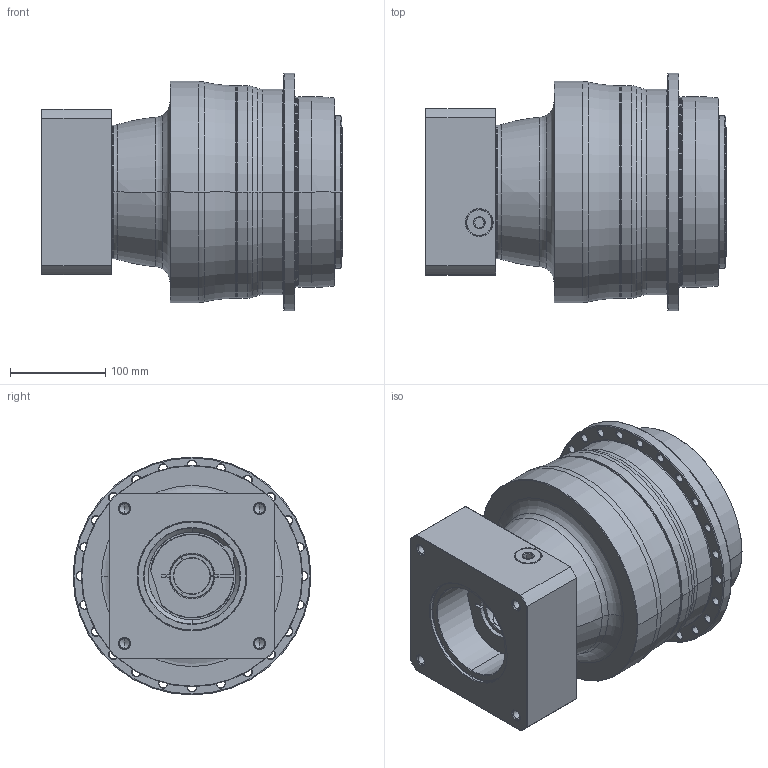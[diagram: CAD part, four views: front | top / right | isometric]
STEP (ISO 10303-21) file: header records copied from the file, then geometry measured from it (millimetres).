
FILE_DESCRIPTION((''),'2;1');
FILE_NAME('AP200_3ST_38-P0409910201_ASM','2018-06-06T',('d01226'),(''),'PRO/ENGINEER BY PARAMETRIC TECHNOLOGY CORPORATION, 2008410','PRO/ENGINEER BY PARAMETRIC TECHNOLOGY CORPORATION, 2008410','');
FILE_SCHEMA(('CONFIG_CONTROL_DESIGN'));
Length unit declared in the file: millimetre
Products named in the file (9): P0278601003; P0359601103; P1366600501; P0503900012; P0912455001; P1211600001; P0409910201; 21711422019; AP200_3ST_38-P0409910201_ASM
Assembly tree (8 placements, depth 2):
  AP200_3ST_38-P0409910201_ASM
    P0278601003
    P0359601103
    P1366600501
    P0503900012
    P0912455001
    P1211600001
    P0409910201
    21711422019
Bounding box: 316 x 249.5 x 249.5 mm (x, y, z)
Volume: 9396701.7 mm3; surface area: 623215.6 mm2
Topology: 9 solids, 34 shells, 646 faces, 1546 edges, 954 vertices
Faces by surface type: cylinder 268, cone 178, plane 107, torus 77, bspline 16
Entity records: 23989 total; most frequent: CARTESIAN_POINT 8196, DIRECTION 3631, ORIENTED_EDGE 2974, AXIS2_PLACEMENT_3D 1560, EDGE_CURVE 1538, VERTEX_POINT 954, CIRCLE 903, EDGE_LOOP 784
